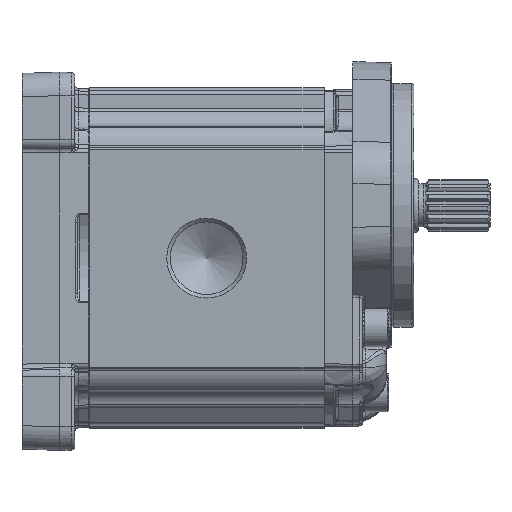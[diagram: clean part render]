
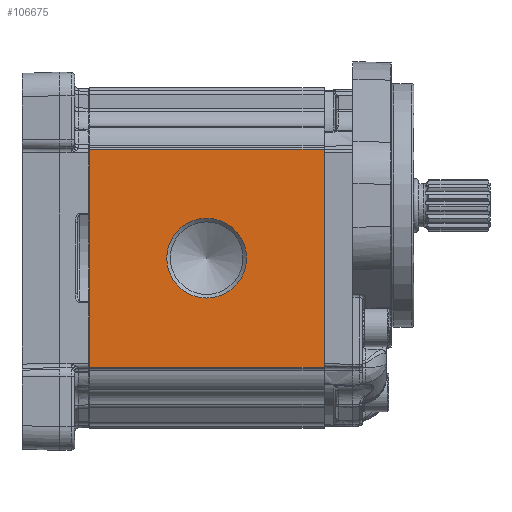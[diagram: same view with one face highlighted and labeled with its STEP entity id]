
A CAD part, left-side view. The second image highlights one B-rep face of the part: STEP entity #106675.
In plain terms, the highlighted planar face has unit normal (-1, 0, 0).
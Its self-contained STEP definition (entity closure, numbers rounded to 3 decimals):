
#5982=PLANE('',#112569);
#8778=LINE('',#204438,#13072);
#8789=LINE('',#204523,#13083);
#8827=LINE('',#204623,#13121);
#8828=LINE('',#204624,#13122);
#13072=VECTOR('',#126197,1000.);
#13083=VECTOR('',#126272,1000.);
#13121=VECTOR('',#126390,1000.);
#13122=VECTOR('',#126391,1000.);
#28302=ORIENTED_EDGE('',*,*,#46704,.T.);
#28303=ORIENTED_EDGE('',*,*,#46608,.F.);
#28304=ORIENTED_EDGE('',*,*,#46705,.T.);
#28305=ORIENTED_EDGE('',*,*,#46650,.F.);
#28306=ORIENTED_EDGE('',*,*,#46706,.T.);
#46608=EDGE_CURVE('',#56690,#56691,#8778,.T.);
#46650=EDGE_CURVE('',#56732,#56733,#8789,.T.);
#46704=EDGE_CURVE('',#56754,#56754,#62563,.F.);
#46705=EDGE_CURVE('',#56690,#56733,#8827,.F.);
#46706=EDGE_CURVE('',#56732,#56691,#8828,.F.);
#56690=VERTEX_POINT('',#204437);
#56691=VERTEX_POINT('',#204439);
#56732=VERTEX_POINT('',#204522);
#56733=VERTEX_POINT('',#204524);
#56754=VERTEX_POINT('',#204622);
#62563=CIRCLE('',#112570,16.646);
#66948=EDGE_LOOP('',(#28302));
#66949=EDGE_LOOP('',(#28303,#28304,#28305,#28306));
#71625=FACE_BOUND('',#66948,.T.);
#71626=FACE_BOUND('',#66949,.T.);
#106675=ADVANCED_FACE('',(#71625,#71626),#5982,.T.);
#112569=AXIS2_PLACEMENT_3D('',#204620,#126386,#126387);
#112570=AXIS2_PLACEMENT_3D('',#204621,#126388,#126389);
#126197=DIRECTION('',(0.,0.,1.));
#126272=DIRECTION('',(0.,0.,-1.));
#126386=DIRECTION('',(-1.,0.,0.));
#126387=DIRECTION('',(0.,0.,-1.));
#126388=DIRECTION('',(-1.,0.,0.));
#126389=DIRECTION('',(0.,0.,-1.));
#126390=DIRECTION('',(0.,1.,0.));
#126391=DIRECTION('',(0.,-1.,0.));
#204437=CARTESIAN_POINT('',(-57.5,98.,-45.5));
#204438=CARTESIAN_POINT('',(-57.5,98.,-84.819));
#204439=CARTESIAN_POINT('',(-57.5,98.,45.5));
#204522=CARTESIAN_POINT('',(-57.5,0.,45.5));
#204523=CARTESIAN_POINT('',(-57.5,0.,-44.978));
#204524=CARTESIAN_POINT('',(-57.5,0.,-45.5));
#204620=CARTESIAN_POINT('',(-57.5,-135.113,-84.819));
#204621=CARTESIAN_POINT('',(-57.5,49.,0.));
#204622=CARTESIAN_POINT('',(-57.5,49.,-16.646));
#204623=CARTESIAN_POINT('',(-57.5,-135.113,-45.5));
#204624=CARTESIAN_POINT('',(-57.5,-135.113,45.5));
